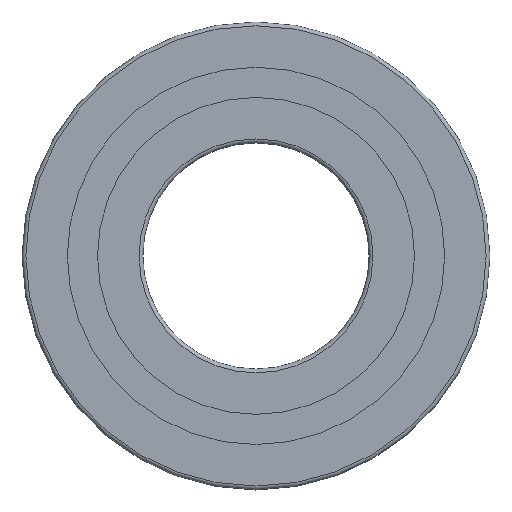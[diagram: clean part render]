
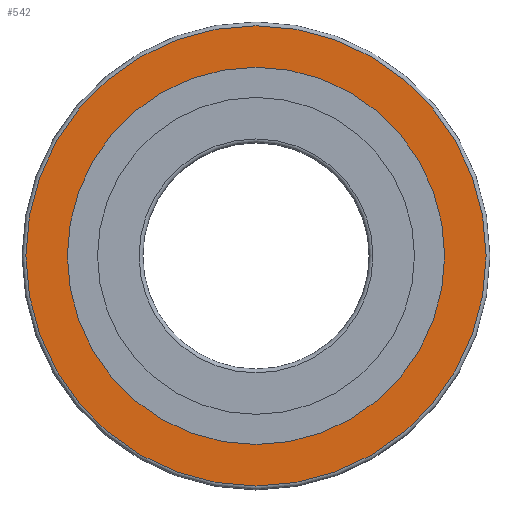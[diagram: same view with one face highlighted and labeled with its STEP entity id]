
A CAD part, top view. The second image highlights one B-rep face of the part: STEP entity #542.
In plain terms, the highlighted planar face has unit normal (0, 0, 1).
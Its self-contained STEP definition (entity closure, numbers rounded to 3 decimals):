
#493=PLANE('',#1376);
#542=ADVANCED_FACE('',(#643,#644),#493,.T.);
#643=FACE_BOUND('',#715,.T.);
#644=FACE_BOUND('',#716,.T.);
#715=EDGE_LOOP('',(#827));
#716=EDGE_LOOP('',(#828));
#827=ORIENTED_EDGE('',*,*,#1175,.T.);
#828=ORIENTED_EDGE('',*,*,#1171,.F.);
#1075=VERTEX_POINT('',#1857);
#1079=VERTEX_POINT('',#1867);
#1171=EDGE_CURVE('',#1075,#1075,#1299,.T.);
#1175=EDGE_CURVE('',#1079,#1079,#1303,.T.);
#1299=CIRCLE('',#1369,25.);
#1303=CIRCLE('',#1375,30.5);
#1369=AXIS2_PLACEMENT_3D('',#1856,#1520,#1521);
#1375=AXIS2_PLACEMENT_3D('',#1866,#1532,#1533);
#1376=AXIS2_PLACEMENT_3D('',#1868,#1534,#1535);
#1520=DIRECTION('',(0.,0.,1.));
#1521=DIRECTION('',(1.,0.,0.));
#1532=DIRECTION('',(0.,0.,1.));
#1533=DIRECTION('',(1.,0.,0.));
#1534=DIRECTION('',(0.,0.,1.));
#1535=DIRECTION('',(1.,0.,0.));
#1856=CARTESIAN_POINT('',(0.,0.,16.));
#1857=CARTESIAN_POINT('',(25.,0.,16.));
#1866=CARTESIAN_POINT('',(0.,0.,16.));
#1867=CARTESIAN_POINT('',(30.5,0.,16.));
#1868=CARTESIAN_POINT('',(0.,0.,16.));
